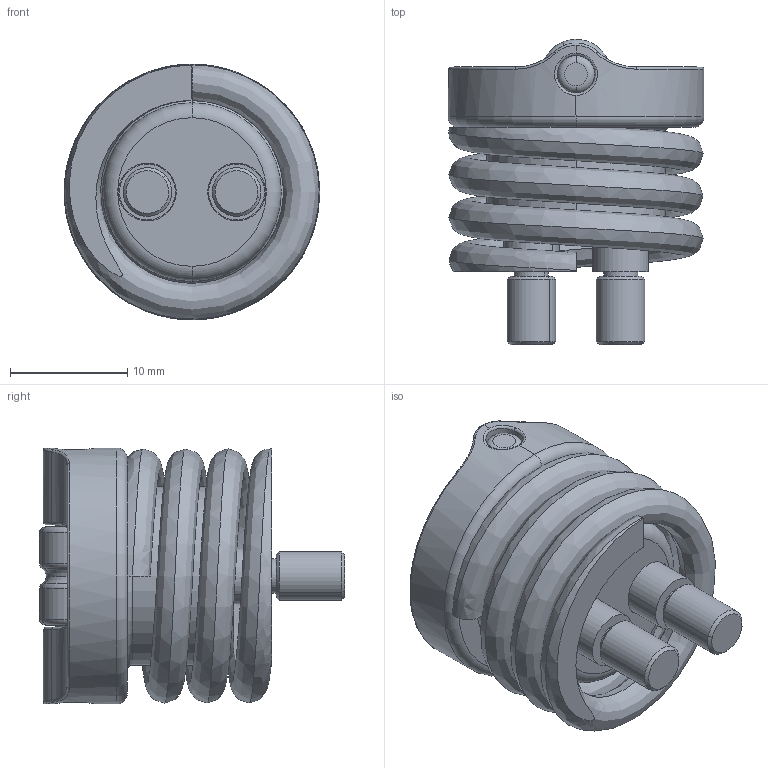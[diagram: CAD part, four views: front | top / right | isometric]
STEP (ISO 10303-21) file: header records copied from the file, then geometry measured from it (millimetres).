
FILE_DESCRIPTION (( 'STEP AP203' ), '1' );
FILE_NAME ('SRT-50.step', '2015-04-15T20:40:39', ( '' ), ( '' ), 'SwSTEP 2.0', 'SolidWorks 2013', '' );
FILE_SCHEMA (( 'CONFIG_CONTROL_DESIGN' ));
Length unit declared in the file: inch
Products named in the file (6): SRT-50_Spring; SRT-50_Retainer; SRT-50; SRT-50_AXLE; SRT-50_SHSB; SRT-50 ROLLER
Assembly tree (6 placements, depth 2):
  SRT-50
    SRT-50_Retainer
    SRT-50_Spring
    SRT-50 ROLLER
    SRT-50_AXLE
    SRT-50_SHSB  x2
Bounding box: 21.84 x 26.07 x 21.84 mm (x, y, z)
Volume: 4822.2 mm3; surface area: 5035.2 mm2
Topology: 6 solids, 6 shells, 171 faces, 381 edges, 232 vertices
Faces by surface type: cylinder 58, plane 46, torus 37, bspline 16, cone 14
Entity records: 6430 total; most frequent: CARTESIAN_POINT 2570, DIRECTION 730, ORIENTED_EDGE 642, EDGE_CURVE 321, AXIS2_PLACEMENT_3D 319, VERTEX_POINT 194, CIRCLE 184, EDGE_LOOP 157
